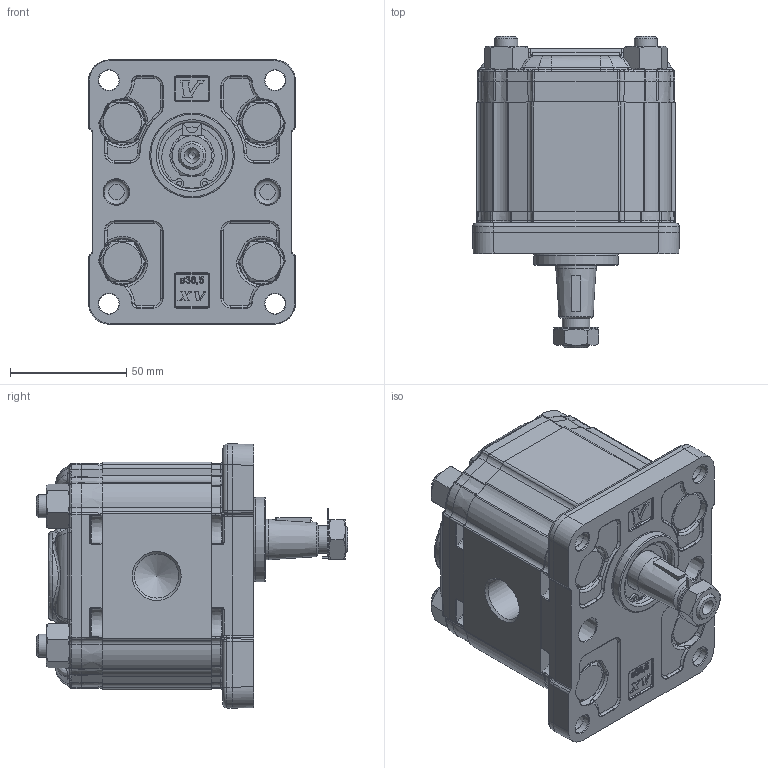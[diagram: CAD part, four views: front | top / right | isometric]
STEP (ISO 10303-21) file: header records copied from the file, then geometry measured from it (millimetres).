
FILE_DESCRIPTION(/* description */ ('Unknown'),/* implementation_level */ '2;1');
FILE_NAME(/* name */ 'X2U4102EBBA',/* time_stamp */ '2026-06-03T18:03:33+02:00',/* author */ ('Unknown'),/* organization */ ('Unknown'),/* preprocessor_version */ 'ST-DEVELOPER v16.7',/* originating_system */ 'Solid Edge',/* authorisation */ 'Unknown');
FILE_SCHEMA (('AUTOMOTIVE_DESIGN {1 0 10303 214 3 1 1}'));
Products named in the file (5): X2U4102EBBA; X2U02; 2E; X2BBH47; XU201-A
Assembly tree (4 placements, depth 2):
  X2U4102EBBA
    X2U02
    2E
    X2BBH47
    XU201-A
Bounding box: 89 x 133.95 x 113.7 mm (x, y, z)
Volume: 643329.9 mm3; surface area: 110926 mm2
Topology: 4 solids, 5 shells, 2437 faces, 5978 edges, 3628 vertices
Faces by surface type: cylinder 629, bspline 623, plane 595, torus 298, cone 261, sphere 31
Full cylindrical faces by diameter (mm): 2 x2, 8.796 x4, 8.798 x4, 10 x12, 10.5 x16, 12 x2, 12.5 x1, 16 x4, 17.42 x1, 18 x1, 18.631 x1, 19 x1, 20.595 x1, 23.332 x1, 25 x1, 25.834 x1, 28.5 x1, 28.56 x1, 28.57 x1, 28.8 x1, 30.5 x1, 36.5 x1
Entity records: 110848 total; most frequent: CARTESIAN_POINT 42849, ORIENTED_EDGE 11222, DIRECTION 9053, EDGE_CURVE 5611, AXIS2_PLACEMENT_3D 3601, VERTEX_POINT 3516, FACE_BOUND 2811, EDGE_LOOP 2807
